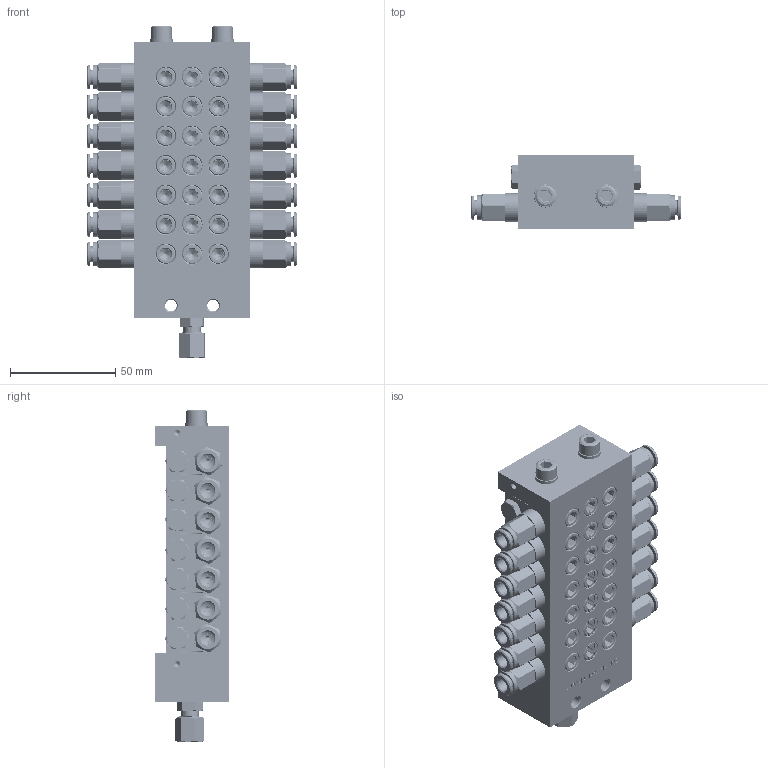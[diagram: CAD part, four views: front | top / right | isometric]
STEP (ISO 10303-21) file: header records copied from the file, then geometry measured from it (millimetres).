
FILE_DESCRIPTION (( 'STEP AP214' ), '1' );
FILE_NAME ('STW_XV_0143_14_0502_14_Auslässe.STEP', '2026-02-04T10:33:57', ( '' ), ( '' ), 'SwSTEP 2.0', 'SolidWorks 2022', '' );
FILE_SCHEMA (( 'AUTOMOTIVE_DESIGN' ));
Length unit declared in the file: millimetre
Products named in the file (18): STW_XV_MITTEL_1; STW_XV_Kolbenanschlag; STW_XV_Verbindungsstopen; U_Scheibe_6; RIVOLUZIONE_0_2; STW_XV_ENGANG; OR 7.66X1.78_1; 991214010601; 991214010601_Schneidring; 991214010601_Koerper; DR6-C_HDX_25.07.16_1; H200139_HDS01_6_M10X1_08.05.17; 991214010601_Mutter; Verschlussstopfen_1_8_2; STW_XV_END; STW_XV_0143_14_0502_14_Auslässe; M6X65_DIN_912; XV_Mittelelement
Assembly tree (55 placements, depth 3):
  STW_XV_0143_14_0502_14_Auslässe
    STW_XV_ENGANG
    STW_XV_MITTEL_1  x3
    STW_XV_END
    Verschlussstopfen_1_8_2  x6
    STW_XV_Kolbenanschlag  x6
    STW_XV_Verbindungsstopen  x3
    M6X65_DIN_912  x2
    U_Scheibe_6  x2
    991214010601
      991214010601_Koerper
      991214010601_Schneidring
      991214010601_Mutter
    XV_Mittelelement  x4
      STW_XV_MITTEL_1
      STW_XV_Kolbenanschlag
      Verschlussstopfen_1_8_2
      STW_XV_Verbindungsstopen
    H200139_HDS01_6_M10X1_08.05.17  x14
      OR 7.66X1.78_1
      DR6-C_HDX_25.07.16_1
      RIVOLUZIONE_0_2
Bounding box: 99.6 x 35 x 157.68 mm (x, y, z)
Volume: 238385 mm3; surface area: 143309.1 mm2
Topology: 93 solids, 93 shells, 3087 faces, 7997 edges, 5150 vertices
Faces by surface type: plane 1518, cylinder 753, cone 602, bspline 200, torus 14
Full cylindrical faces by diameter (mm): 2 x185, 3 x14, 4.2 x14, 4.5 x1, 5 x74, 5.5 x2, 5.9 x2, 6 x3, 6.2 x31, 6.3 x14, 6.4 x2, 6.5 x14, 7 x14, 7.2 x14, 7.4 x1, 7.67 x1, 8 x15, 8.3 x1, 8.4 x7, 8.5 x14, 8.6 x35, 9 x16, 9.7 x14, 9.73 x7, 9.8 x7, 9.9 x14, 10 x44, 10.3 x14, 11 x2, 11.5 x14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
Entity records: 44873 total; most frequent: CARTESIAN_POINT 22304, ORIENTED_EDGE 2994, DIRECTION 2635, EDGE_CURVE 1497, VERTEX_POINT 1072, EDGE_LOOP 1011, AXIS2_PLACEMENT_3D 944, FACE_OUTER_BOUND 812
